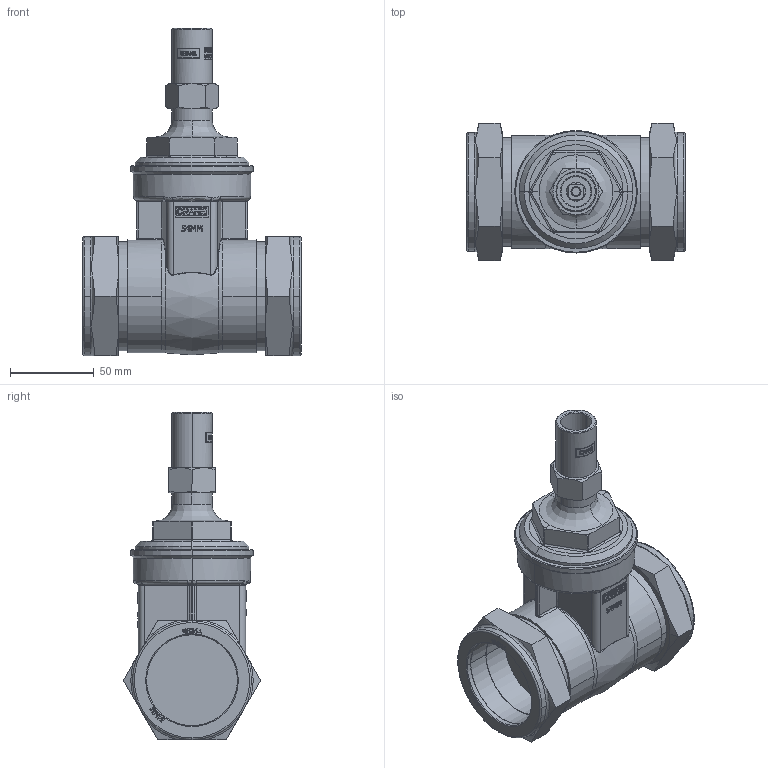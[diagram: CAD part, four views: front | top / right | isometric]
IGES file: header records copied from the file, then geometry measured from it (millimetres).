
Global section: file name: No Iges File Name specified; native system: AutoDesk Inventor R12.0; preprocessor: AutoDesk Inventor Iges Exporter R12.0; date: 20110314.121712; units: millimetre
Bounding box: 130.52 x 81.98 x 195.5 mm (x, y, z)
Volume: 544922.6 mm3; surface area: 87555 mm2
Topology: 1 solids, 3 shells, 1338 faces, 3553 edges, 2324 vertices
Faces by surface type: plane 673, bspline 417, revolution 84, cylinder 82, cone 56, torus 26
